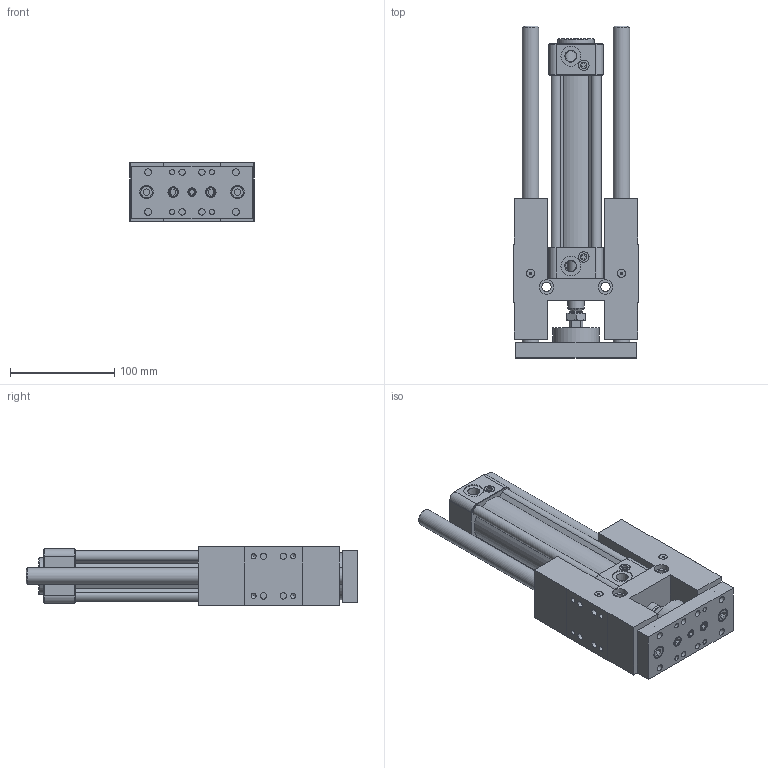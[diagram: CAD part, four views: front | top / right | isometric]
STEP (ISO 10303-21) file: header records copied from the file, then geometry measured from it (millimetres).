
FILE_DESCRIPTION((''),'2;1');
FILE_NAME('I:\3D電子目錄\氣缸\GHB(U)\GHB(U)\GHB(U)40\GHB(U)40x125.stp','2007-10-19T14:50:40',('Administrator'),(''),'Autodesk Inventor 11','Autodesk Inventor 11','');
FILE_SCHEMA(('AUTOMOTIVE_DESIGN { 1 0 10303 214 1 1 1 1 }'));
Length unit declared in the file: millimetre
Products named in the file (1): GHB(U)40
Bounding box: 119 x 318 x 56.2 mm (x, y, z)
Volume: 993597.4 mm3; surface area: 225415.3 mm2
Topology: 17 solids, 17 shells, 779 faces, 1702 edges, 1054 vertices
Faces by surface type: plane 296, bspline 215, cylinder 170, cone 89, torus 9
Full cylindrical faces by diameter (mm): 2.6 x2, 4.9 x2, 4.917 x4, 5 x4, 5.5 x10, 6 x12, 6.5 x8, 6.8 x1, 7.8 x6, 8 x5, 9 x6, 9.5 x1, 9.9 x1, 10 x5, 10.2 x8, 12 x3, 13 x2, 16 x4, 18 x1, 19 x2, 21 x2, 35 x1, 40 x1, 45 x1
Entity records: 22134 total; most frequent: CARTESIAN_POINT 6597, DIRECTION 3108, ORIENTED_EDGE 2968, EDGE_CURVE 1484, AXIS2_PLACEMENT_3D 1218, EDGE_LOOP 1096, VERTEX_POINT 1022, FACE_OUTER_BOUND 779
